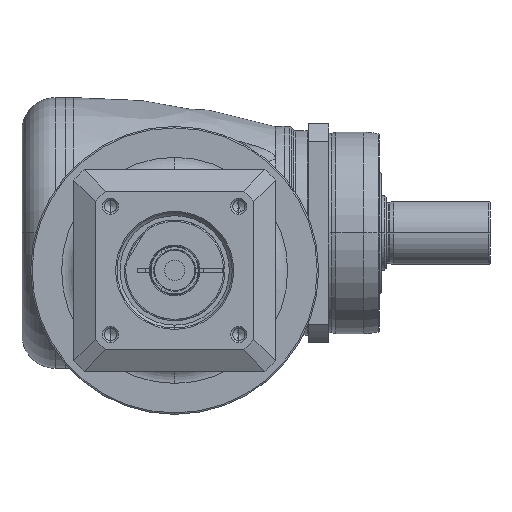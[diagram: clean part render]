
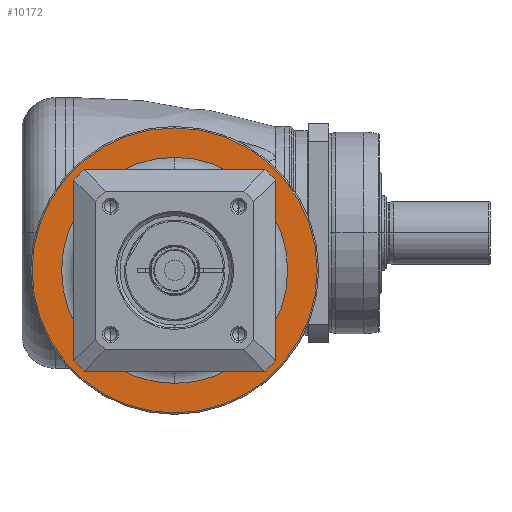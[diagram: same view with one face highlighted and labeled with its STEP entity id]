
A CAD part, front view. The second image highlights one B-rep face of the part: STEP entity #10172.
In plain terms, the highlighted planar face has unit normal (0, -1, 0) as drawn and (1, 0, 0) by its records, which use the part's own axes.
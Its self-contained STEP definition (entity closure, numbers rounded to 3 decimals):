
#9155=CARTESIAN_POINT('',(-9.,0.,0.));
#9156=DIRECTION('',(-1.,0.,0.));
#9157=DIRECTION('',(0.,-1.,0.));
#9158=AXIS2_PLACEMENT_3D('',#9155,#9156,#9157);
#9160=CARTESIAN_POINT('',(-9.,0.,0.));
#9161=DIRECTION('',(-1.,0.,0.));
#9162=DIRECTION('',(0.,1.,0.));
#9163=AXIS2_PLACEMENT_3D('',#9160,#9161,#9162);
#9165=CARTESIAN_POINT('',(-9.,0.,0.));
#9166=DIRECTION('',(-1.,0.,0.));
#9167=DIRECTION('',(0.,-1.,0.));
#9168=AXIS2_PLACEMENT_3D('',#9165,#9166,#9167);
#9170=CARTESIAN_POINT('',(-9.,0.,0.));
#9171=DIRECTION('',(-1.,0.,0.));
#9172=DIRECTION('',(0.,1.,0.));
#9173=AXIS2_PLACEMENT_3D('',#9170,#9171,#9172);
#9417=CARTESIAN_POINT('',(-9.,-49.5,0.));
#9418=CARTESIAN_POINT('',(-9.,49.5,0.));
#9419=VERTEX_POINT('',#9417);
#9420=VERTEX_POINT('',#9418);
#9475=CARTESIAN_POINT('',(-9.,-39.25,0.));
#9476=CARTESIAN_POINT('',(-9.,39.25,0.));
#9477=VERTEX_POINT('',#9475);
#9478=VERTEX_POINT('',#9476);
#10157=CARTESIAN_POINT('',(-9.,0.,0.));
#10158=DIRECTION('',(1.,0.,0.));
#10159=DIRECTION('',(0.,-1.,0.));
#10160=AXIS2_PLACEMENT_3D('',#10157,#10158,#10159);
#10161=PLANE('',#10160);
#10162=ORIENTED_EDGE('',*,*,#10089,.T.);
#10163=ORIENTED_EDGE('',*,*,#10074,.T.);
#10164=EDGE_LOOP('',(#10162,#10163));
#10165=FACE_OUTER_BOUND('',#10164,.F.);
#10167=ORIENTED_EDGE('',*,*,#10166,.F.);
#10169=ORIENTED_EDGE('',*,*,#10168,.F.);
#10170=EDGE_LOOP('',(#10167,#10169));
#10171=FACE_BOUND('',#10170,.F.);
#10172=ADVANCED_FACE('',(#10165,#10171),#10161,.T.);
#9159=CIRCLE('',#9158,39.25);
#9164=CIRCLE('',#9163,39.25);
#9169=CIRCLE('',#9168,49.5);
#9174=CIRCLE('',#9173,49.5);
#10074=EDGE_CURVE('',#9420,#9419,#9174,.T.);
#10089=EDGE_CURVE('',#9419,#9420,#9169,.T.);
#10166=EDGE_CURVE('',#9477,#9478,#9159,.T.);
#10168=EDGE_CURVE('',#9478,#9477,#9164,.T.);
